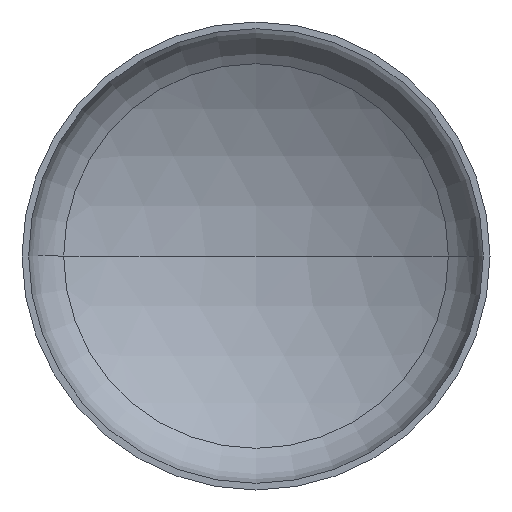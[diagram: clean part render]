
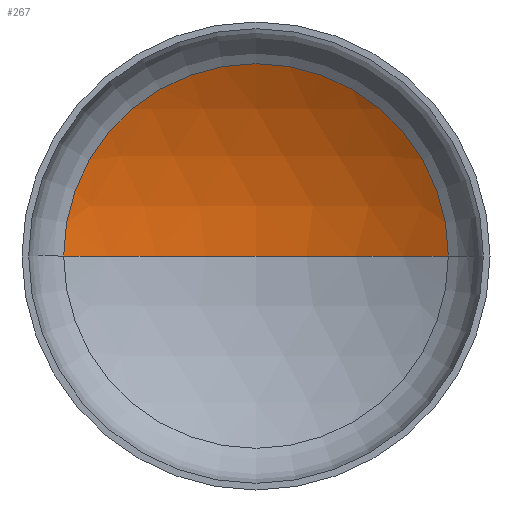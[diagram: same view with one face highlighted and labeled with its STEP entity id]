
A CAD part, front view. The second image highlights one B-rep face of the part: STEP entity #267.
In plain terms, the highlighted spherical face has radius 6400 mm.
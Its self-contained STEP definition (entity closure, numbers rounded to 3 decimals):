
#26 = AXIS2_PLACEMENT_3D ( 'NONE', #130, #39, #62 ) ;
#29 = CARTESIAN_POINT ( 'NONE',  ( 3287.892, 1130.279, 0. ) ) ;
#39 = DIRECTION ( 'NONE',  ( 0., 0., -1. ) ) ;
#42 = AXIS2_PLACEMENT_3D ( 'NONE', #139, #141, #178 ) ;
#48 = AXIS2_PLACEMENT_3D ( 'NONE', #206, #133, #172 ) ;
#49 = AXIS2_PLACEMENT_3D ( 'NONE', #135, #292, #291 ) ;
#57 = EDGE_LOOP ( 'NONE', ( #79, #259, #227 ) ) ;
#62 = DIRECTION ( 'NONE',  ( -1., 0., 0. ) ) ;
#79 = ORIENTED_EDGE ( 'NONE', *, *, #86, .F. ) ;
#83 = EDGE_CURVE ( 'NONE', #197, #262, #236, .T. ) ;
#84 = EDGE_CURVE ( 'NONE', #98, #197, #365, .T. ) ;
#86 = EDGE_CURVE ( 'NONE', #98, #262, #409, .T. ) ;
#98 = VERTEX_POINT ( 'NONE', #207 ) ;
#130 = CARTESIAN_POINT ( 'NONE',  ( 0., -4360.602, 0. ) ) ;
#133 = DIRECTION ( 'NONE',  ( 0., 0., -1. ) ) ;
#135 = CARTESIAN_POINT ( 'NONE',  ( 0., 1130.279, 0. ) ) ;
#139 = CARTESIAN_POINT ( 'NONE',  ( 0., -4360.602, 0. ) ) ;
#141 = DIRECTION ( 'NONE',  ( 0., 0., 1. ) ) ;
#172 = DIRECTION ( 'NONE',  ( -1., 0., 0. ) ) ;
#178 = DIRECTION ( 'NONE',  ( 1., 0., 0. ) ) ;
#197 = VERTEX_POINT ( 'NONE', #29 ) ;
#206 = CARTESIAN_POINT ( 'NONE',  ( 0., -4360.602, 0. ) ) ;
#207 = CARTESIAN_POINT ( 'NONE',  ( 0., 2039.398, 0. ) ) ;
#227 = ORIENTED_EDGE ( 'NONE', *, *, #83, .T. ) ;
#236 = CIRCLE ( 'NONE', #49, 3287.892 ) ;
#259 = ORIENTED_EDGE ( 'NONE', *, *, #84, .T. ) ;
#262 = VERTEX_POINT ( 'NONE', #387 ) ;
#267 = ADVANCED_FACE ( 'NONE', ( #272 ), #339, .F. ) ;
#272 = FACE_OUTER_BOUND ( 'NONE', #57, .T. ) ;
#291 = DIRECTION ( 'NONE',  ( 1., 0., 0. ) ) ;
#292 = DIRECTION ( 'NONE',  ( 0., -1., 0. ) ) ;
#339 = SPHERICAL_SURFACE ( 'NONE', #26, 6400. ) ;
#365 = CIRCLE ( 'NONE', #48, 6400. ) ;
#387 = CARTESIAN_POINT ( 'NONE',  ( -3287.892, 1130.279, 0. ) ) ;
#409 = CIRCLE ( 'NONE', #42, 6400. ) ;
